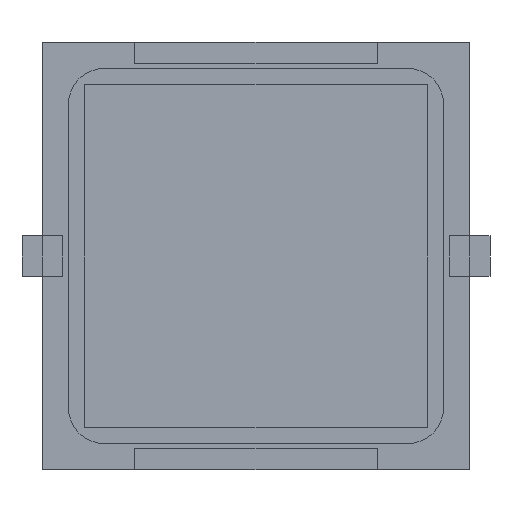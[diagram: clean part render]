
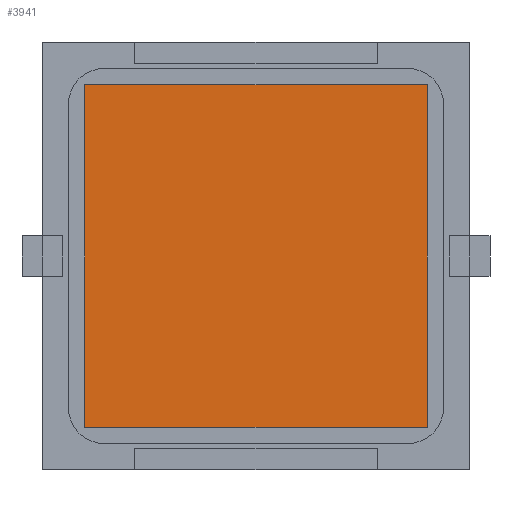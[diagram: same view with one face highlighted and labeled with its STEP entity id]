
A CAD part, front view. The second image highlights one B-rep face of the part: STEP entity #3941.
In plain terms, the highlighted planar face has unit normal (0, -1, 0).
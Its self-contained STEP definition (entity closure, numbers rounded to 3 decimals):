
#9 = DIRECTION ( 'NONE',  ( 0., 0., 1. ) ) ;
#172 = DIRECTION ( 'NONE',  ( 0., 0., 1. ) ) ;
#391 = PLANE ( 'NONE',  #1904 ) ;
#509 = LINE ( 'NONE', #2008, #805 ) ;
#568 = EDGE_CURVE ( 'NONE', #1803, #3336, #3675, .T. ) ;
#671 = CARTESIAN_POINT ( 'NONE',  ( 8.5, -0.1, 8.5 ) ) ;
#695 = VECTOR ( 'NONE', #964, 1000. ) ;
#713 = VERTEX_POINT ( 'NONE', #1891 ) ;
#805 = VECTOR ( 'NONE', #2324, 1000. ) ;
#963 = ORIENTED_EDGE ( 'NONE', *, *, #1105, .F. ) ;
#964 = DIRECTION ( 'NONE',  ( 0., 0., -1. ) ) ;
#1089 = ORIENTED_EDGE ( 'NONE', *, *, #2937, .F. ) ;
#1105 = EDGE_CURVE ( 'NONE', #713, #1666, #3542, .T. ) ;
#1278 = CARTESIAN_POINT ( 'NONE',  ( -8.5, -0.1, -8.5 ) ) ;
#1303 = EDGE_LOOP ( 'NONE', ( #963, #1699, #3465, #1089 ) ) ;
#1504 = VECTOR ( 'NONE', #172, 1000. ) ;
#1666 = VERTEX_POINT ( 'NONE', #2572 ) ;
#1699 = ORIENTED_EDGE ( 'NONE', *, *, #4565, .F. ) ;
#1748 = CARTESIAN_POINT ( 'NONE',  ( 8.5, -0.1, -8.5 ) ) ;
#1803 = VERTEX_POINT ( 'NONE', #671 ) ;
#1887 = DIRECTION ( 'NONE',  ( 0., 1., 0. ) ) ;
#1891 = CARTESIAN_POINT ( 'NONE',  ( -8.5, -0.1, -8.5 ) ) ;
#1904 = AXIS2_PLACEMENT_3D ( 'NONE', #3386, #1887, #9 ) ;
#2008 = CARTESIAN_POINT ( 'NONE',  ( -8.5, -0.1, -8.5 ) ) ;
#2324 = DIRECTION ( 'NONE',  ( -1., 0., 0. ) ) ;
#2572 = CARTESIAN_POINT ( 'NONE',  ( -8.5, -0.1, 8.5 ) ) ;
#2937 = EDGE_CURVE ( 'NONE', #1666, #1803, #4124, .T. ) ;
#2942 = FACE_OUTER_BOUND ( 'NONE', #1303, .T. ) ;
#3014 = CARTESIAN_POINT ( 'NONE',  ( 8.5, -0.1, -8.5 ) ) ;
#3045 = CARTESIAN_POINT ( 'NONE',  ( -8.5, -0.1, 8.5 ) ) ;
#3336 = VERTEX_POINT ( 'NONE', #3014 ) ;
#3386 = CARTESIAN_POINT ( 'NONE',  ( -8.5, -0.1, 8.5 ) ) ;
#3441 = DIRECTION ( 'NONE',  ( 1., 0., 0. ) ) ;
#3465 = ORIENTED_EDGE ( 'NONE', *, *, #568, .F. ) ;
#3542 = LINE ( 'NONE', #1278, #1504 ) ;
#3675 = LINE ( 'NONE', #1748, #695 ) ;
#3941 = ADVANCED_FACE ( 'NONE', ( #2942 ), #391, .F. ) ;
#4124 = LINE ( 'NONE', #3045, #4155 ) ;
#4155 = VECTOR ( 'NONE', #3441, 1000. ) ;
#4565 = EDGE_CURVE ( 'NONE', #3336, #713, #509, .T. ) ;
